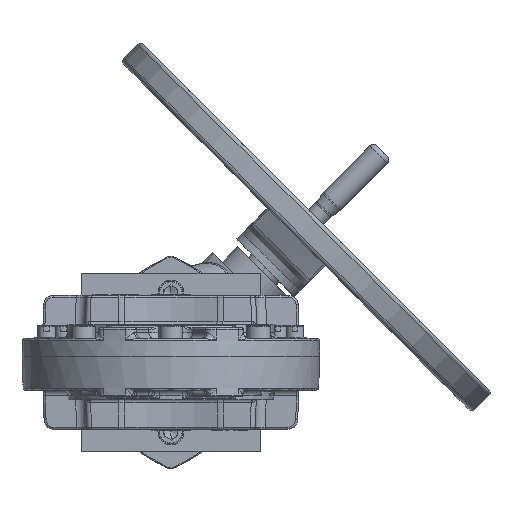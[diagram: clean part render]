
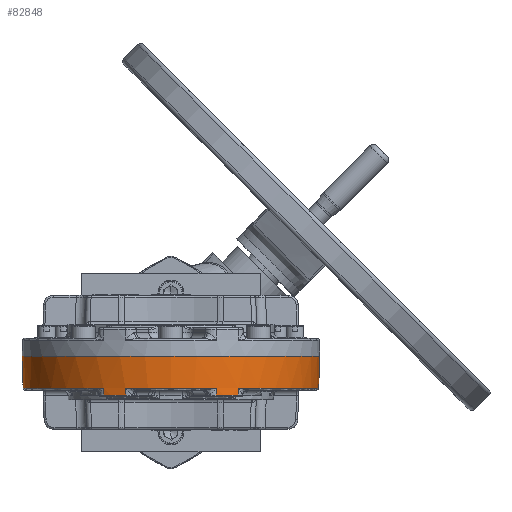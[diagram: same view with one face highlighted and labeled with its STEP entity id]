
A CAD part, front view. The second image highlights one B-rep face of the part: STEP entity #82848.
In plain terms, the highlighted conical face has half-angle 2 degrees and reference radius 150 mm.
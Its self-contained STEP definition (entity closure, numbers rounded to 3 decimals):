
#988 = EDGE_LOOP ( 'NONE', ( #97262, #65198, #35480, #120459, #8705, #9490, #89687, #111044, #26696, #17319, #14690, #49574 ) ) ;
#1037 = DIRECTION ( 'NONE',  ( 0., 0., 1. ) ) ;
#1161 = CONICAL_SURFACE ( 'NONE', #90876, 150., 0.035 ) ;
#1453 = DIRECTION ( 'NONE',  ( -0.011, -0.033, 0.999 ) ) ;
#1850 = CARTESIAN_POINT ( 'NONE',  ( 0., 0., 0. ) ) ;
#5524 = VERTEX_POINT ( 'NONE', #48767 ) ;
#6006 = DIRECTION ( 'NONE',  ( 0., 0., 1. ) ) ;
#6215 = VERTEX_POINT ( 'NONE', #90853 ) ;
#6627 = VERTEX_POINT ( 'NONE', #28137 ) ;
#6834 = EDGE_CURVE ( 'NONE', #110336, #34417, #9251, .T. ) ;
#8705 = ORIENTED_EDGE ( 'NONE', *, *, #31690, .T. ) ;
#9251 = CIRCLE ( 'NONE', #90539, 148.88 ) ;
#9351 = CARTESIAN_POINT ( 'NONE',  ( 0., 0., -39.07 ) ) ;
#9490 = ORIENTED_EDGE ( 'NONE', *, *, #122667, .F. ) ;
#11890 = DIRECTION ( 'NONE',  ( -1., 0., 0. ) ) ;
#13162 = VERTEX_POINT ( 'NONE', #105774 ) ;
#14690 = ORIENTED_EDGE ( 'NONE', *, *, #91607, .T. ) ;
#17020 = EDGE_CURVE ( 'NONE', #77859, #13162, #77235, .T. ) ;
#17319 = ORIENTED_EDGE ( 'NONE', *, *, #108050, .F. ) ;
#17842 = VERTEX_POINT ( 'NONE', #105019 ) ;
#18896 = DIRECTION ( 'NONE',  ( 1., 0., 0. ) ) ;
#20400 = LINE ( 'NONE', #112030, #93723 ) ;
#21204 = DIRECTION ( 'NONE',  ( 0.011, -0.033, 0.999 ) ) ;
#23025 = CARTESIAN_POINT ( 'NONE',  ( 0., 0., -32.07 ) ) ;
#25367 = EDGE_CURVE ( 'NONE', #33010, #77859, #38201, .T. ) ;
#26477 = LINE ( 'NONE', #103000, #48957 ) ;
#26696 = ORIENTED_EDGE ( 'NONE', *, *, #6834, .T. ) ;
#28137 = CARTESIAN_POINT ( 'NONE',  ( -150., 0., 0. ) ) ;
#30582 = CARTESIAN_POINT ( 'NONE',  ( 68.307, -133.544, 0. ) ) ;
#31690 = EDGE_CURVE ( 'NONE', #109991, #5524, #102956, .T. ) ;
#32593 = DIRECTION ( 'NONE',  ( 0., 0., 1. ) ) ;
#32655 = DIRECTION ( 'NONE',  ( 1., 0., 0. ) ) ;
#33010 = VERTEX_POINT ( 'NONE', #87517 ) ;
#34336 = CARTESIAN_POINT ( 'NONE',  ( 0., 0., -32.07 ) ) ;
#34417 = VERTEX_POINT ( 'NONE', #45465 ) ;
#35357 = EDGE_CURVE ( 'NONE', #109991, #6627, #20400, .T. ) ;
#35480 = ORIENTED_EDGE ( 'NONE', *, *, #88699, .F. ) ;
#36351 = DIRECTION ( 'NONE',  ( 0., 0., 1. ) ) ;
#37155 = VERTEX_POINT ( 'NONE', #117732 ) ;
#38201 = CIRCLE ( 'NONE', #64745, 148.88 ) ;
#40257 = DIRECTION ( 'NONE',  ( 0.016, -0.031, 0.999 ) ) ;
#43971 = DIRECTION ( 'NONE',  ( 1., 0., 0. ) ) ;
#44501 = VERTEX_POINT ( 'NONE', #47186 ) ;
#45465 = CARTESIAN_POINT ( 'NONE',  ( 45.785, -141.665, -32.07 ) ) ;
#45794 = DIRECTION ( 'NONE',  ( -0.016, -0.031, 0.999 ) ) ;
#46560 = CARTESIAN_POINT ( 'NONE',  ( -148.88, 0., -32.07 ) ) ;
#47186 = CARTESIAN_POINT ( 'NONE',  ( 67.686, -132.33, -39.07 ) ) ;
#48767 = CARTESIAN_POINT ( 'NONE',  ( -67.797, -132.547, -32.07 ) ) ;
#48957 = VECTOR ( 'NONE', #45794, 1000. ) ;
#49574 = ORIENTED_EDGE ( 'NONE', *, *, #49988, .T. ) ;
#49988 = EDGE_CURVE ( 'NONE', #44501, #33010, #54155, .T. ) ;
#51679 = VECTOR ( 'NONE', #21204, 1000. ) ;
#53658 = EDGE_CURVE ( 'NONE', #37155, #110336, #61757, .T. ) ;
#54155 = LINE ( 'NONE', #30582, #79624 ) ;
#54833 = DIRECTION ( 'NONE',  ( -0.035, 0., 0.999 ) ) ;
#56133 = CARTESIAN_POINT ( 'NONE',  ( -45.785, -141.665, -32.07 ) ) ;
#58695 = CARTESIAN_POINT ( 'NONE',  ( -46.13, -142.731, 0. ) ) ;
#61757 = LINE ( 'NONE', #58695, #112489 ) ;
#63278 = CARTESIAN_POINT ( 'NONE',  ( 0., 0., -32.07 ) ) ;
#63982 = FACE_OUTER_BOUND ( 'NONE', #988, .T. ) ;
#64745 = AXIS2_PLACEMENT_3D ( 'NONE', #63278, #6006, #72912 ) ;
#65198 = ORIENTED_EDGE ( 'NONE', *, *, #17020, .T. ) ;
#72912 = DIRECTION ( 'NONE',  ( 1., 0., 0. ) ) ;
#76196 = DIRECTION ( 'NONE',  ( 0., 0., 1. ) ) ;
#77122 = LINE ( 'NONE', #88125, #51679 ) ;
#77235 = LINE ( 'NONE', #88399, #102579 ) ;
#77859 = VERTEX_POINT ( 'NONE', #91699 ) ;
#78354 = DIRECTION ( 'NONE',  ( 0.035, 0., 0.999 ) ) ;
#79624 = VECTOR ( 'NONE', #40257, 1000. ) ;
#82848 = ADVANCED_FACE ( 'NONE', ( #63982 ), #1161, .T. ) ;
#84196 = AXIS2_PLACEMENT_3D ( 'NONE', #23025, #89988, #32655 ) ;
#87517 = CARTESIAN_POINT ( 'NONE',  ( 67.797, -132.547, -32.07 ) ) ;
#88125 = CARTESIAN_POINT ( 'NONE',  ( 46.13, -142.731, 0. ) ) ;
#88399 = CARTESIAN_POINT ( 'NONE',  ( 150., 0., 0. ) ) ;
#88699 = EDGE_CURVE ( 'NONE', #6627, #13162, #121579, .T. ) ;
#89687 = ORIENTED_EDGE ( 'NONE', *, *, #93505, .T. ) ;
#89930 = CARTESIAN_POINT ( 'NONE',  ( 0., 0., -39.07 ) ) ;
#89988 = DIRECTION ( 'NONE',  ( 0., 0., 1. ) ) ;
#90482 = CIRCLE ( 'NONE', #100475, 148.636 ) ;
#90539 = AXIS2_PLACEMENT_3D ( 'NONE', #34336, #101214, #43971 ) ;
#90853 = CARTESIAN_POINT ( 'NONE',  ( 45.71, -141.432, -39.07 ) ) ;
#90876 = AXIS2_PLACEMENT_3D ( 'NONE', #1850, #1037, #11890 ) ;
#91607 = EDGE_CURVE ( 'NONE', #6215, #44501, #115437, .T. ) ;
#91699 = CARTESIAN_POINT ( 'NONE',  ( 148.88, 0., -32.07 ) ) ;
#93505 = EDGE_CURVE ( 'NONE', #17842, #37155, #90482, .T. ) ;
#93660 = CARTESIAN_POINT ( 'NONE',  ( 0., 0., 0. ) ) ;
#93723 = VECTOR ( 'NONE', #54833, 1000. ) ;
#97262 = ORIENTED_EDGE ( 'NONE', *, *, #25367, .T. ) ;
#99503 = DIRECTION ( 'NONE',  ( 1., 0., 0. ) ) ;
#100475 = AXIS2_PLACEMENT_3D ( 'NONE', #9351, #76196, #18896 ) ;
#101214 = DIRECTION ( 'NONE',  ( 0., 0., 1. ) ) ;
#102579 = VECTOR ( 'NONE', #78354, 1000. ) ;
#102956 = CIRCLE ( 'NONE', #84196, 148.88 ) ;
#103000 = CARTESIAN_POINT ( 'NONE',  ( -68.307, -133.544, 0. ) ) ;
#103212 = DIRECTION ( 'NONE',  ( 1., 0., 0. ) ) ;
#105019 = CARTESIAN_POINT ( 'NONE',  ( -67.686, -132.33, -39.07 ) ) ;
#105774 = CARTESIAN_POINT ( 'NONE',  ( 150., 0., 0. ) ) ;
#108050 = EDGE_CURVE ( 'NONE', #6215, #34417, #77122, .T. ) ;
#109991 = VERTEX_POINT ( 'NONE', #46560 ) ;
#110336 = VERTEX_POINT ( 'NONE', #56133 ) ;
#111044 = ORIENTED_EDGE ( 'NONE', *, *, #53658, .T. ) ;
#112030 = CARTESIAN_POINT ( 'NONE',  ( -150., 0., 0. ) ) ;
#112489 = VECTOR ( 'NONE', #1453, 1000. ) ;
#114527 = AXIS2_PLACEMENT_3D ( 'NONE', #89930, #32593, #99503 ) ;
#115437 = CIRCLE ( 'NONE', #114527, 148.636 ) ;
#117732 = CARTESIAN_POINT ( 'NONE',  ( -45.71, -141.432, -39.07 ) ) ;
#120459 = ORIENTED_EDGE ( 'NONE', *, *, #35357, .F. ) ;
#121280 = AXIS2_PLACEMENT_3D ( 'NONE', #93660, #36351, #103212 ) ;
#121579 = CIRCLE ( 'NONE', #121280, 150. ) ;
#122667 = EDGE_CURVE ( 'NONE', #17842, #5524, #26477, .T. ) ;
